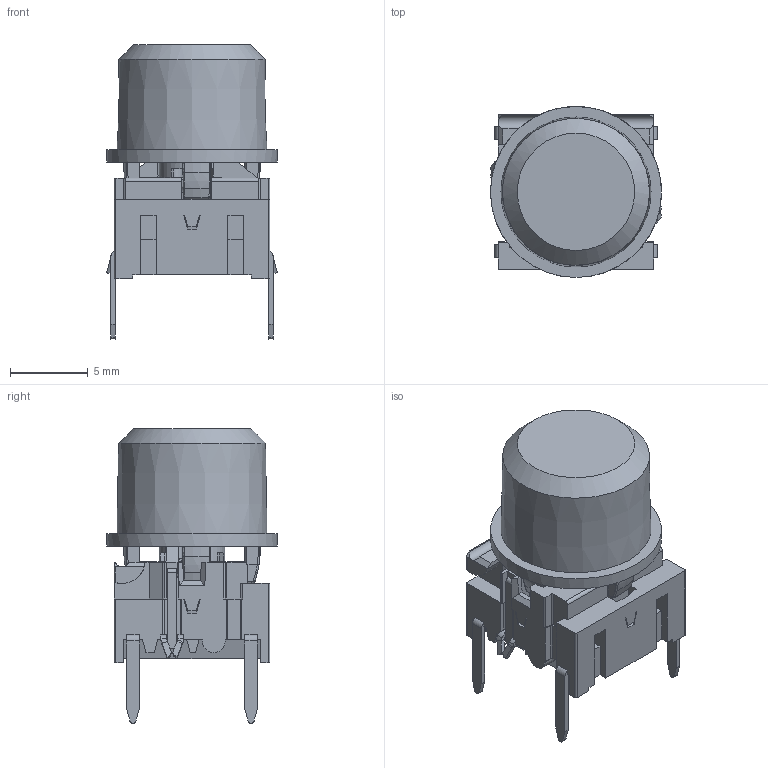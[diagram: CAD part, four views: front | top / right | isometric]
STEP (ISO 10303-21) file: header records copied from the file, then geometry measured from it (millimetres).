
FILE_DESCRIPTION(/* description */ (''),/* implementation_level */ '2;1');
FILE_NAME(/* name */ 'C:\Users\cgh.MEC\Desktop\Traceparts - 3D programserie\STEP filer\il-TH\5GTH9xxxxxxx+1ES.stp',/* time_stamp */ '2016-02-29T06:38:24+01:00',/* author */ ('cgh'),/* organization */ (''),/* preprocessor_version */ 'ST-DEVELOPER v15.2',/* originating_system */ 'Autodesk Inventor 2014',/* authorisation */ '');
FILE_SCHEMA (('AUTOMOTIVE_DESIGN { 1 0 10303 214 3 1 1 }'));
Length unit declared in the file: centimetre
Products named in the file (1): cgh
Bounding box: 11 x 11 x 18.96 mm (x, y, z)
Volume: 781.4 mm3; surface area: 1785.7 mm2
Topology: 1 solids, 1 shells, 1343 faces, 3782 edges, 2466 vertices
Faces by surface type: plane 845, cylinder 215, bspline 164, torus 64, cone 49, sphere 6
Full cylindrical faces by diameter (mm): 0.9 x1, 1 x3, 2.8 x1, 3 x1, 4.6 x1, 4.73 x1, 6.5 x1, 7.44 x1, 11 x1
Entity records: 47584 total; most frequent: CARTESIAN_POINT 12516, ORIENTED_EDGE 7460, DIRECTION 6346, EDGE_CURVE 3730, VERTEX_POINT 2451, LINE 2416, VECTOR 2416, AXIS2_PLACEMENT_3D 1965
